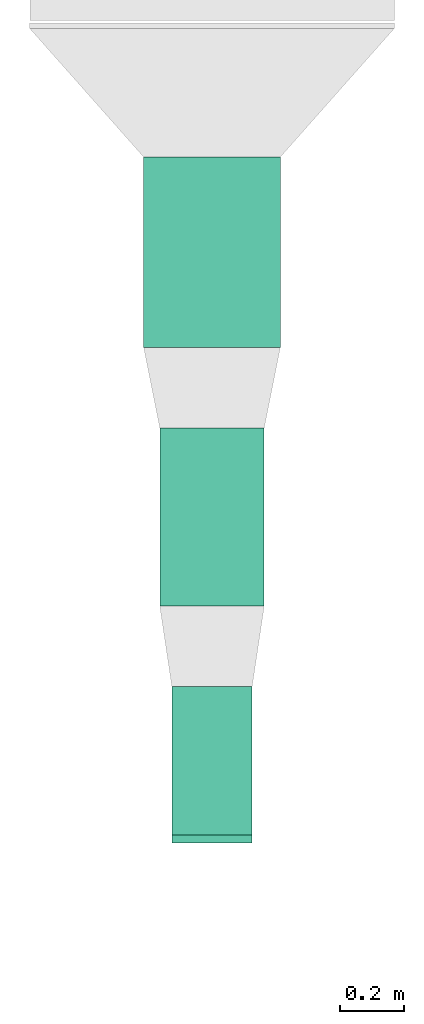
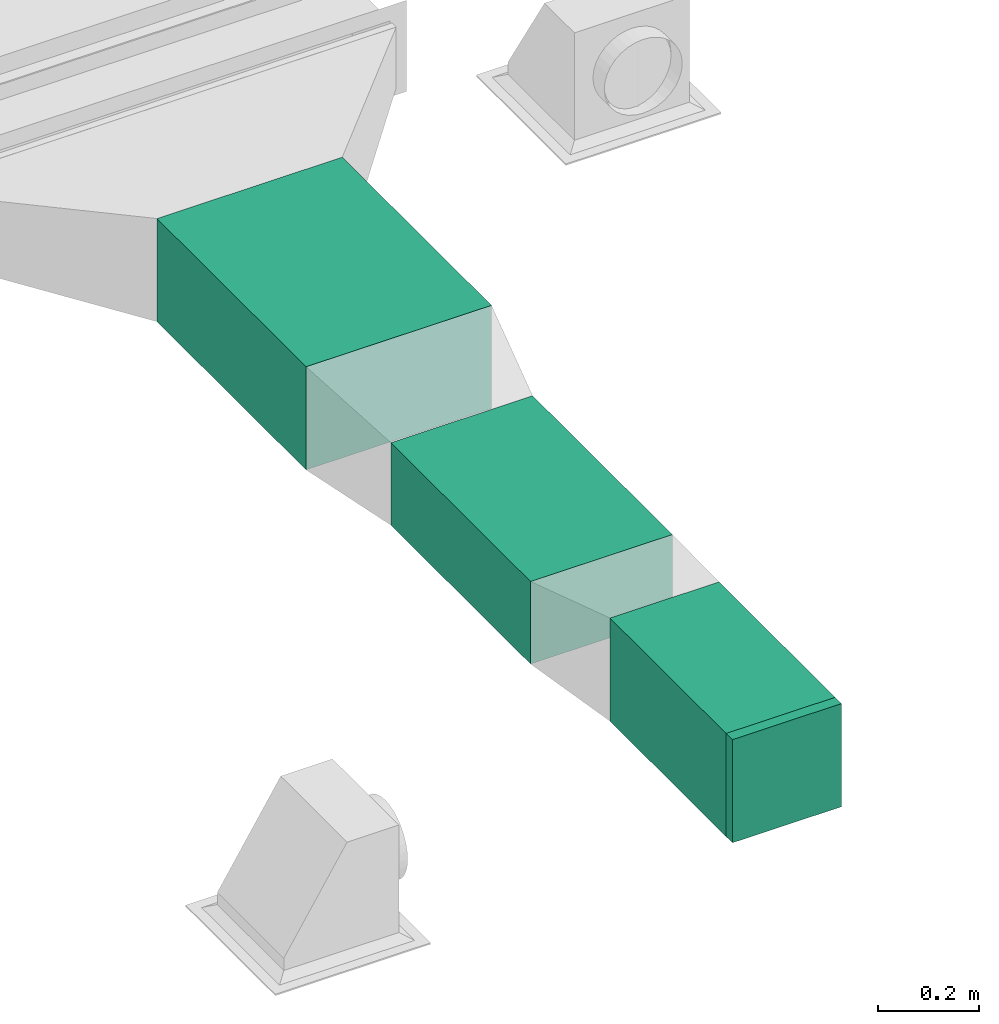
# One storey, part 13 of 22: 3 flow segments, 1 flow fitting.
"""IFC2X3 building model written with IfcOpenShell, lengths in millimetres."""

from ifc_helpers import new_model, entity, si_unit, converted_unit, derived_unit, direction, frame, frame_2d, origin, origin_2d_with_axis, place, context, subcontext, project, spatial, rectangle, extrude, source, transform, mapped, material, type_object, type_shapes, element, save


model = new_model("IFC2X3")

# Units and contexts
model_context = context("Model", 3, precision=0.01, world=origin(), true_north=direction((6.123233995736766e-17, 1.0)))
body_context = subcontext(model_context, "Body", "Model", "MODEL_VIEW")
ifc_project = project(units=[si_unit("LENGTHUNIT", "METRE", prefix="MILLI"), converted_unit("PLANEANGLEUNIT", "DEGREE", entity("IfcPlaneAngleMeasure", 0.017453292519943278), si_unit("PLANEANGLEUNIT", "RADIAN"), dimensions=[0, 0, 0, 0, 0, 0, 0]), si_unit("AREAUNIT", "SQUARE_METRE"), derived_unit("THERMALTRANSMITTANCEUNIT", [(si_unit("MASSUNIT", "GRAM", prefix="KILO"), 1), (si_unit("THERMODYNAMICTEMPERATUREUNIT", "KELVIN"), -1), (si_unit("TIMEUNIT", "SECOND"), -3)])], contexts=[model_context])

# Site, building, storey
site_placement = place(None, origin())
site = spatial("IfcSite", under=ifc_project, at=site_placement, Name="Default", CompositionType="ELEMENT")
building_placement = place(site_placement, origin())
building = spatial("IfcBuilding", under=site, at=building_placement, Name="Praça Pedro II, 1301 - Centro (Sul), Teresina - PI, 64001-100", CompositionType="ELEMENT")
storey_placement = place(building_placement, frame((0.0, 0.0, 320.0)))
storey = spatial("IfcBuildingStorey", under=building, at=storey_placement, Name="TÉRREO +0.32m", CompositionType="ELEMENT", Elevation=319.99999999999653)

# Flow segments
duct_segment_type = type_object("IfcDuctSegmentType", Name="Duto retangular:Raios cotovelos / torneiras", PredefinedType="NOTDEFINED")
flow_segment_1_placement = place(storey_placement, origin())
element("IfcFlowSegment", 1, at=flow_segment_1_placement, inside=storey, type_object=duct_segment_type, Name="Duto retangular:Raios cotovelos / torneiras", ObjectType="Duto retangular:Raios cotovelos / torneiras", context=body_context, shape_type="SweptSolid", body=[
    extrude(rectangle(XDim=592.3069508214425, YDim=424.99999999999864, at=frame_2d((8.668621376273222e-12, 2.1742607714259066e-12), x_axis=(1.0, 0.0))), frame((37584.97586072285, -53497.75037608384, 2118.456747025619), z_axis=(0.0, 0.0, 1.0), x_axis=(0.0, -1.0, 0.0)), (0.0, 0.0, 1.0), 249.9999999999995),
])
flow_segment_2_placement = place(storey_placement, origin())
element("IfcFlowSegment", 2, at=flow_segment_2_placement, inside=storey, type_object=duct_segment_type, Name="Duto retangular:Raios cotovelos / torneiras", ObjectType="Duto retangular:Raios cotovelos / torneiras", context=body_context, shape_type="SweptSolid", body=[
    extrude(rectangle(XDim=461.2256648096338, YDim=249.9999999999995, at=frame_2d((0.0, 2.1671553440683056e-12), x_axis=(1.0, 0.0))), frame((37584.975860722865, -55079.233121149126, 2118.456747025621), z_axis=(0.0, 0.0, 1.0), x_axis=(0.0, 1.0, 0.0)), (0.0, 0.0, 1.0), 249.9999999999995),
])
flow_segment_3_placement = place(storey_placement, origin())
element("IfcFlowSegment", 3, at=flow_segment_3_placement, inside=storey, type_object=duct_segment_type, Name="Duto retangular:Raios cotovelos / torneiras", ObjectType="Duto retangular:Raios cotovelos / torneiras", context=body_context, shape_type="SweptSolid", body=[
    extrude(rectangle(XDim=554.7164372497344, YDim=324.9999999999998, at=origin_2d_with_axis()), frame((37584.97586072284, -54321.26207011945, 2118.4567470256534), z_axis=(0.0, 0.0, 1.0), x_axis=(0.0, -1.0, 0.0)), (0.0, 0.0, 1.0), 200.0),
])

# Flow fitting
ifc_material = material(Name="<Unnamed>")
duct_fitting_type = type_object("IfcDuctFittingType", Name="M_Tampa retangular:Padrão", PredefinedType="NOTDEFINED", material=ifc_material)
shared_shape = source(origin(), body_context, "Body", "SweptSolid", [
    extrude(rectangle(XDim=24.999999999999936, YDim=250.00000000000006, at=origin_2d_with_axis()), frame((12.500000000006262, 0.0, -125.0)), (0.0, 0.0, 1.0), 250.00000000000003),
])
type_shapes(duct_fitting_type, [shared_shape])
flow_fitting_placement = place(storey_placement, frame((37584.97586072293, -55309.84595355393, 2243.4567470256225), z_axis=(0.0, 0.0, 1.0), x_axis=(0.0, -1.0, 0.0)))
element("IfcFlowFitting", 4, at=flow_fitting_placement, inside=storey, type_object=duct_fitting_type, material=ifc_material, Name="M_Tampa retangular:Padrão", ObjectType="M_Tampa retangular:Padrão", context=body_context, shape_type="MappedRepresentation", body=[
    mapped(shared_shape, transform((0.0, 0.0, 0.0), scale=1.0)),
])

save(model, "model.ifc")
